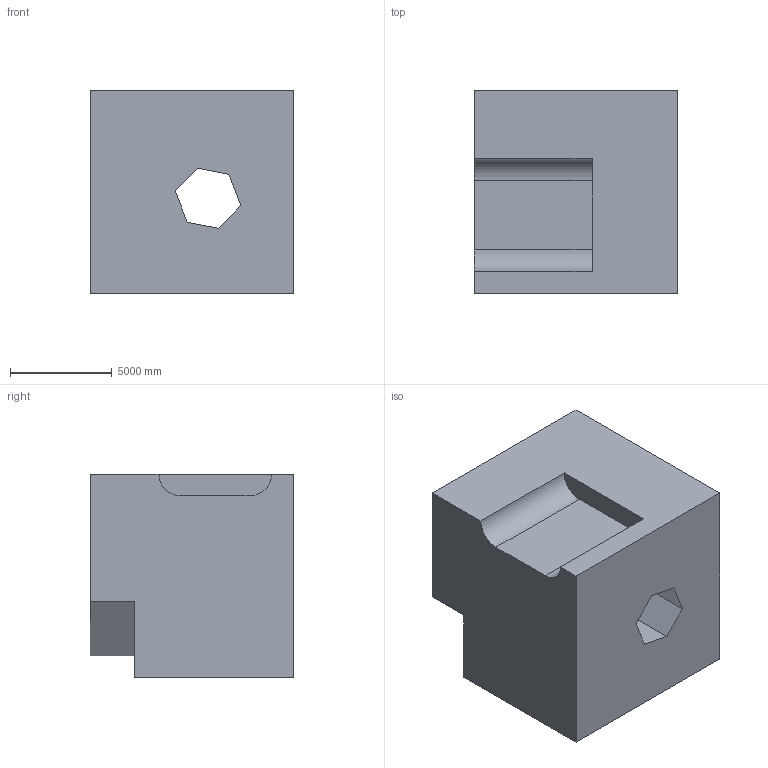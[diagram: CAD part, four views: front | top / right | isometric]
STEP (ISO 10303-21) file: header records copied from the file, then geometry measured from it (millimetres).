
FILE_DESCRIPTION (( 'STEP AP203' ), '1' );
FILE_NAME ('21.STEP', '2022-08-30T14:03:10', ( 'user' ), ( '' ), 'SwSTEP 2.0', 'SolidWorks 2021', '' );
FILE_SCHEMA (( 'CONFIG_CONTROL_DESIGN' ));
Length unit declared in the file: centimetre
Products named in the file (1): 21
Bounding box: 10000 x 10000 x 10000 mm (x, y, z)
Volume: 850498959246.5 mm3; surface area: 679857303.9 mm2
Topology: 1 solids, 1 shells, 18 faces, 48 edges, 32 vertices
Faces by surface type: plane 16, cylinder 2
Entity records: 637 total; most frequent: CARTESIAN_POINT 99, ORIENTED_EDGE 96, DIRECTION 90, EDGE_CURVE 48, VECTOR 44, LINE 44, VERTEX_POINT 32, AXIS2_PLACEMENT_3D 23
